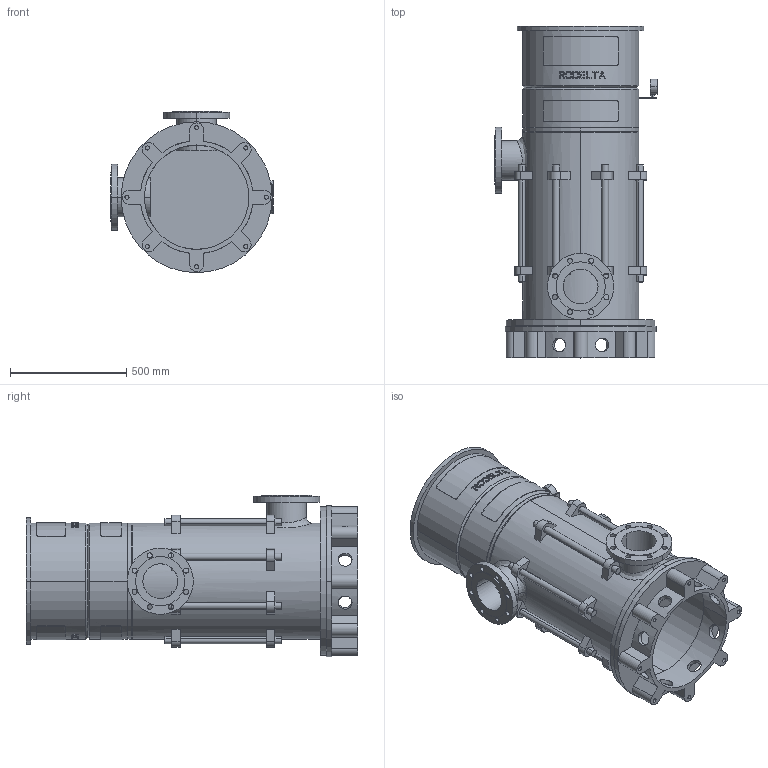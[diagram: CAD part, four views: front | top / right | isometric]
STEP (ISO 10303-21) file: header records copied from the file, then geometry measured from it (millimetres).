
FILE_DESCRIPTION((''),'2;1');
FILE_NAME('LS6_3TR_0GR_PN16_ABOVE_30KW','2025-10-23T12:04:06',('Lyritlocal'),(''),'CREO PARAMETRIC BY PTC INC, 2022014','CREO PARAMETRIC BY PTC INC, 2022014','');
FILE_SCHEMA(('CONFIG_CONTROL_DESIGN'));
Length unit declared in the file: millimetre
Products named in the file (1): LS6_3TR_0GR_PN16_ABOVE_30KW
Bounding box: 700 x 1429 x 695 mm (x, y, z)
Volume: 49702696.2 mm3; surface area: 6671417.6 mm2
Topology: 3 solids, 11 shells, 732 faces, 1891 edges, 1258 vertices
Faces by surface type: plane 438, cylinder 274, cone 12, bspline 8
Entity records: 24356 total; most frequent: CARTESIAN_POINT 6528, ORIENTED_EDGE 3750, DIRECTION 3537, EDGE_CURVE 1891, AXIS2_PLACEMENT_3D 1341, VERTEX_POINT 1258, EDGE_LOOP 893, VECTOR 855
